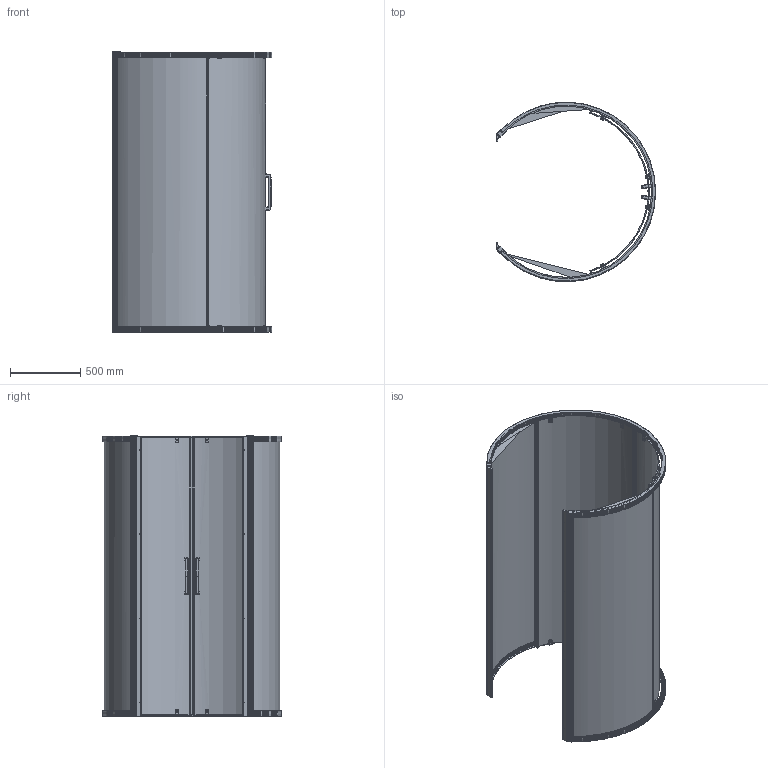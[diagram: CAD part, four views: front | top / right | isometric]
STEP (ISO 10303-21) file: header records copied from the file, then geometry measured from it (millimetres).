
FILE_DESCRIPTION(/* description */ (''),/* implementation_level */ '2;1');
FILE_NAME(/* name */ 'D:\Работа\Сергей\! Готово\Документация и модели всех серий\KUBELE динамические модели и набор документов\18 NEW\KÜBELE DE018RR4\KÜBELE DE018RR4-3D.stp',/* time_stamp */ '2019-06-22T17:13:32+03:00',/* author */ ('User'),/* organization */ (''),/* preprocessor_version */ 'ST-DEVELOPER v15.2',/* originating_system */ 'Autodesk Inventor 2014',/* authorisation */ '');
FILE_SCHEMA (('CONFIG_CONTROL_DESIGN'));
Products named in the file (1): KÜBELE DE018RR4-3D
Bounding box: 1137.73 x 1278.37 x 2002.5 mm (x, y, z)
Volume: 47152325.6 mm3; surface area: 14590223.1 mm2
Topology: 13 solids, 34 shells, 5580 faces, 14761 edges, 9221 vertices
Faces by surface type: plane 2574, cylinder 1725, bspline 370, cone 352, torus 319, sphere 240
Full cylindrical faces by diameter (mm): 3 x20, 3.1 x8, 4 x28, 4.134 x8, 4.509 x8, 5 x72, 5.1 x8, 5.2 x8, 6.8 x4, 8.4 x16, 8.8 x8, 10 x8, 11.5 x32
Entity records: 221964 total; most frequent: CARTESIAN_POINT 83177, ORIENTED_EDGE 28170, DIRECTION 27261, EDGE_CURVE 14053, AXIS2_PLACEMENT_3D 9734, VERTEX_POINT 8945, LINE 7793, VECTOR 7793
